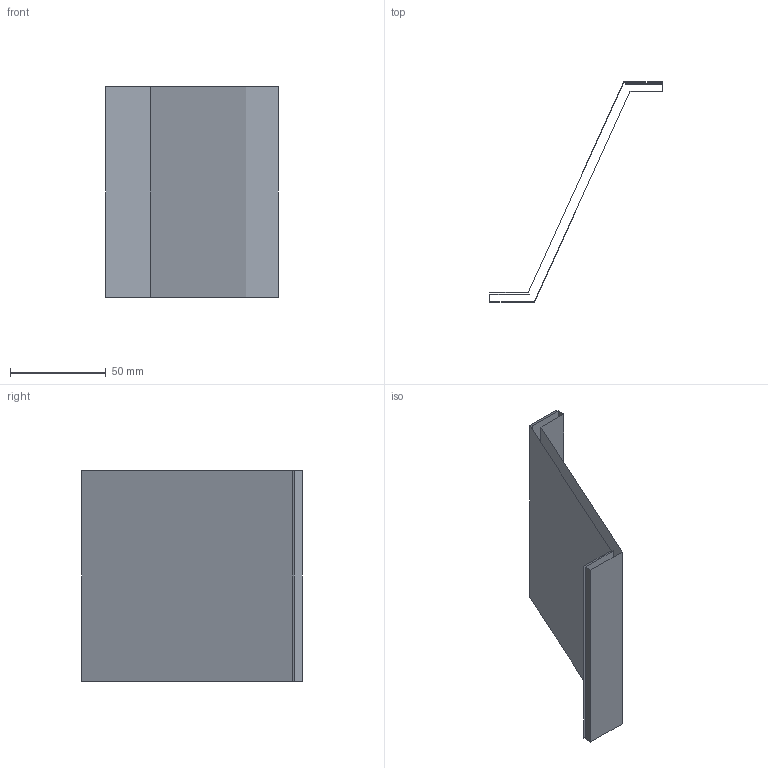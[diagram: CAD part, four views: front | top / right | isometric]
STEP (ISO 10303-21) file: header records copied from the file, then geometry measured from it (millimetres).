
FILE_DESCRIPTION(('CATIA V5 STEP Exchange'),'2;1');
FILE_NAME('C:\_Andres\UNIVERSIDAD\IQS\ASIGNATURAS\DAO\EXF\EXF-16172c\2inicio\Duch_Leira_Ej06_v10.stp','2017-03-05T21:01:23+00:00',('none'),('none'),'CATIA Version 5-6 Release 2014 SP1 HF18','CATIA V5 STEP AP203','none');
FILE_SCHEMA(('CONFIG_CONTROL_DESIGN'));
Length unit declared in the file: millimetre
Products named in the file (1): Duch_Leira_Ej06_v10
Bounding box: 90 x 115 x 110 mm (x, y, z)
Surface area: 40662.7 mm2 (no closed solid volume)
Topology: 0 solids, 2 shells, 10 faces, 42 edges, 36 vertices
Faces by surface type: plane 10
Entity records: 461 total; most frequent: CARTESIAN_POINT 100, DIRECTION 59, ORIENTED_EDGE 40, VECTOR 39, LINE 39, EDGE_CURVE 32, VERTEX_POINT 24, AXIS2_PLACEMENT_3D 11
